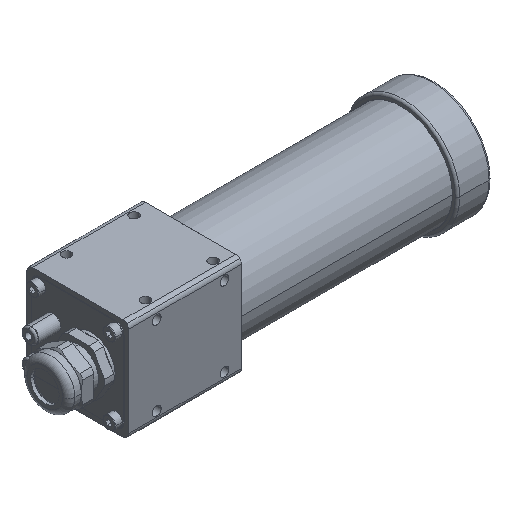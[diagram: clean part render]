
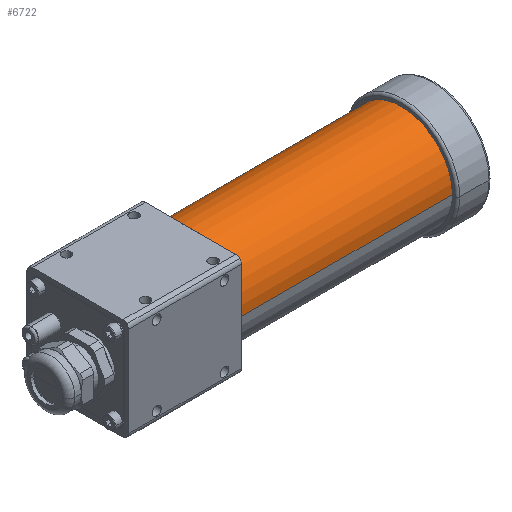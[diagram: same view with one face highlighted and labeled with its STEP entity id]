
A CAD part, isometric view. The second image highlights one B-rep face of the part: STEP entity #6722.
In plain terms, the highlighted cylindrical face has radius 28.575 mm (diameter 57.15 mm), a partial arc.
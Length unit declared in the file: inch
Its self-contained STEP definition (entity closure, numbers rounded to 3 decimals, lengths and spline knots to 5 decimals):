
#6700 = VERTEX_POINT( '', #16998 );
#6702 = EDGE_CURVE( '', #10394, #6700, #17000, .T. );
#6722 = ADVANCED_FACE( '', ( #17025 ), #17026, .T. );
#7408 = EDGE_CURVE( '', #10394, #10960, #17805, .T. );
#10394 = VERTEX_POINT( '', #21163 );
#10960 = VERTEX_POINT( '', #21797 );
#13412 = VERTEX_POINT( '', #24536 );
#13906 = EDGE_CURVE( '', #13412, #6700, #25084, .T. );
#14136 = EDGE_CURVE( '', #10960, #13412, #25354, .T. );
#16998 = CARTESIAN_POINT( '', ( 1.67073, 1.125, 0. ) );
#17000 = CIRCLE( '', #29054, 1.125 );
#17025 = FACE_OUTER_BOUND( '', #29082, .T. );
#17026 = CYLINDRICAL_SURFACE( '', #29083, 1.125 );
#17805 = LINE( '', #30172, #30173 );
#21163 = CARTESIAN_POINT( '', ( 1.67073, -1.125, 0. ) );
#21797 = CARTESIAN_POINT( '', ( -3., -1.125, 0. ) );
#24536 = CARTESIAN_POINT( '', ( -3., 1.125, 0. ) );
#25084 = LINE( '', #40757, #40758 );
#25354 = CIRCLE( '', #41112, 1.125 );
#29054 = AXIS2_PLACEMENT_3D( '', #44929, #44930, #44931 );
#29082 = EDGE_LOOP( '', ( #44975, #44976, #44977, #44978 ) );
#29083 = AXIS2_PLACEMENT_3D( '', #44979, #44980, #44981 );
#30172 = CARTESIAN_POINT( '', ( 0.2, -1.125, 0. ) );
#30173 = VECTOR( '', #46004, 1. );
#40757 = CARTESIAN_POINT( '', ( 0.2, 1.125, 0. ) );
#40758 = VECTOR( '', #54984, 1. );
#41112 = AXIS2_PLACEMENT_3D( '', #55355, #55356, #55357 );
#44929 = CARTESIAN_POINT( '', ( 1.67073, 0., 0. ) );
#44930 = DIRECTION( '', ( -1., 0., 0. ) );
#44931 = DIRECTION( '', ( 0., 1., 0. ) );
#44975 = ORIENTED_EDGE( '', *, *, #13906, .F. );
#44976 = ORIENTED_EDGE( '', *, *, #14136, .F. );
#44977 = ORIENTED_EDGE( '', *, *, #7408, .F. );
#44978 = ORIENTED_EDGE( '', *, *, #6702, .T. );
#44979 = CARTESIAN_POINT( '', ( 0.2, 0., 0. ) );
#44980 = DIRECTION( '', ( -1., 0., 0. ) );
#44981 = DIRECTION( '', ( 0., 1., 0. ) );
#46004 = DIRECTION( '', ( -1., 0., 0. ) );
#54984 = DIRECTION( '', ( 1., 0., 0. ) );
#55355 = CARTESIAN_POINT( '', ( -3., 0., 0. ) );
#55356 = DIRECTION( '', ( -1., 0., 0. ) );
#55357 = DIRECTION( '', ( 0., 1., 0. ) );
